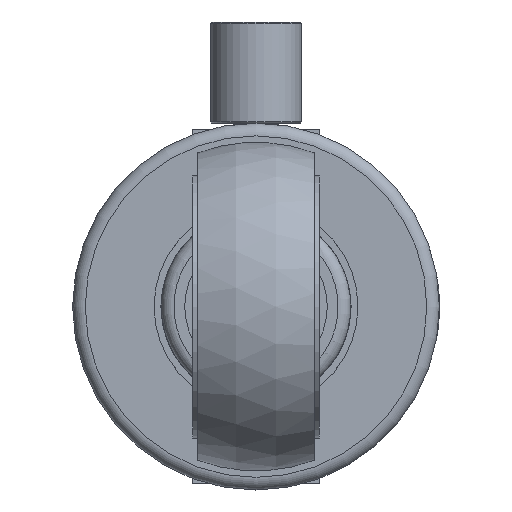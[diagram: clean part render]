
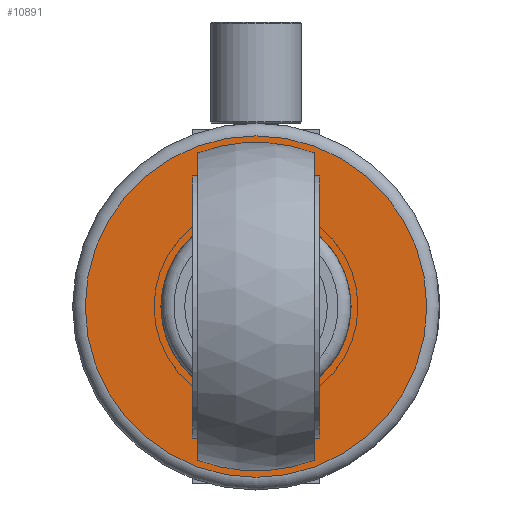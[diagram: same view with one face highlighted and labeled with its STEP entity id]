
A CAD part, front view. The second image highlights one B-rep face of the part: STEP entity #10891.
In plain terms, the highlighted planar face has unit normal (0, -1, 0) as drawn and (0, 0, -1) by its records, which use the part's own axes.
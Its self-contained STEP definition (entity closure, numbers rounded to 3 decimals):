
#1132=FACE_BOUND('',#4092,.T.);
#1366=PLANE('',#11525);
#3416=FACE_OUTER_BOUND('',#4091,.T.);
#4091=EDGE_LOOP('',(#10010));
#4092=EDGE_LOOP('',(#10011));
#4365=CIRCLE('',#11521,37.6);
#4368=CIRCLE('',#11526,67.5);
#5407=VERTEX_POINT('',#28762);
#5410=VERTEX_POINT('',#28772);
#6957=EDGE_CURVE('',#5407,#5407,#4365,.T.);
#6962=EDGE_CURVE('',#5410,#5410,#4368,.T.);
#10010=ORIENTED_EDGE('',*,*,#6962,.F.);
#10011=ORIENTED_EDGE('',*,*,#6957,.F.);
#10891=ADVANCED_FACE('',(#3416,#1132),#1366,.F.);
#11521=AXIS2_PLACEMENT_3D('',#28763,#13205,#13206);
#11525=AXIS2_PLACEMENT_3D('',#28771,#13215,#13216);
#11526=AXIS2_PLACEMENT_3D('',#28773,#13217,#13218);
#13205=DIRECTION('center_axis',(0.,0.,-1.));
#13206=DIRECTION('ref_axis',(-1.,0.,0.));
#13215=DIRECTION('center_axis',(0.,0.,1.));
#13216=DIRECTION('ref_axis',(1.,0.,0.));
#13217=DIRECTION('center_axis',(0.,0.,1.));
#13218=DIRECTION('ref_axis',(1.,0.,0.));
#28762=CARTESIAN_POINT('',(37.6,0.,0.));
#28763=CARTESIAN_POINT('Origin',(0.,0.,0.));
#28771=CARTESIAN_POINT('Origin',(0.,0.,0.));
#28772=CARTESIAN_POINT('',(-67.5,0.,0.));
#28773=CARTESIAN_POINT('Origin',(0.,0.,0.));
